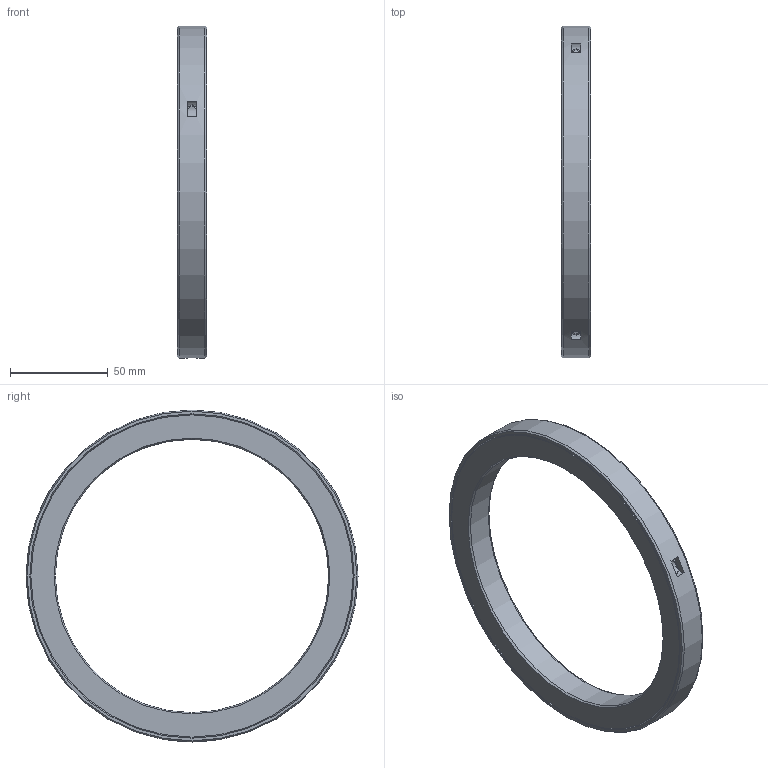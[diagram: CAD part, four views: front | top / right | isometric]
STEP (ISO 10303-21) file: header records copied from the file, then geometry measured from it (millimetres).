
FILE_DESCRIPTION(/* description */ (''),/* implementation_level */ '2;1');
FILE_NAME(/* name */ '301453 M 140x170x15.stp',/* time_stamp */ '2016-12-15T12:20:55+01:00',/* author */ (''),/* organization */ (''),/* preprocessor_version */ 'ST-DEVELOPER v15',/* originating_system */ 'SIEMENS PLM Software NX 8.5',/* authorisation */ '');
FILE_SCHEMA (('CONFIG_CONTROL_DESIGN'));
Length unit declared in the file: millimetre
Products named in the file (1): ATE0000124_01
Bounding box: 15 x 170 x 170 mm (x, y, z)
Volume: 104455.3 mm3; surface area: 44217.8 mm2
Topology: 2 solids, 2 shells, 39 faces, 111 edges, 72 vertices
Faces by surface type: plane 16, cone 12, cylinder 11
Full cylindrical faces by diameter (mm): 140 x1, 170 x1
Entity records: 1274 total; most frequent: CARTESIAN_POINT 264, DIRECTION 202, ORIENTED_EDGE 176, AXIS2_PLACEMENT_3D 98, EDGE_CURVE 88, VERTEX_POINT 64, EDGE_LOOP 60, CIRCLE 58
